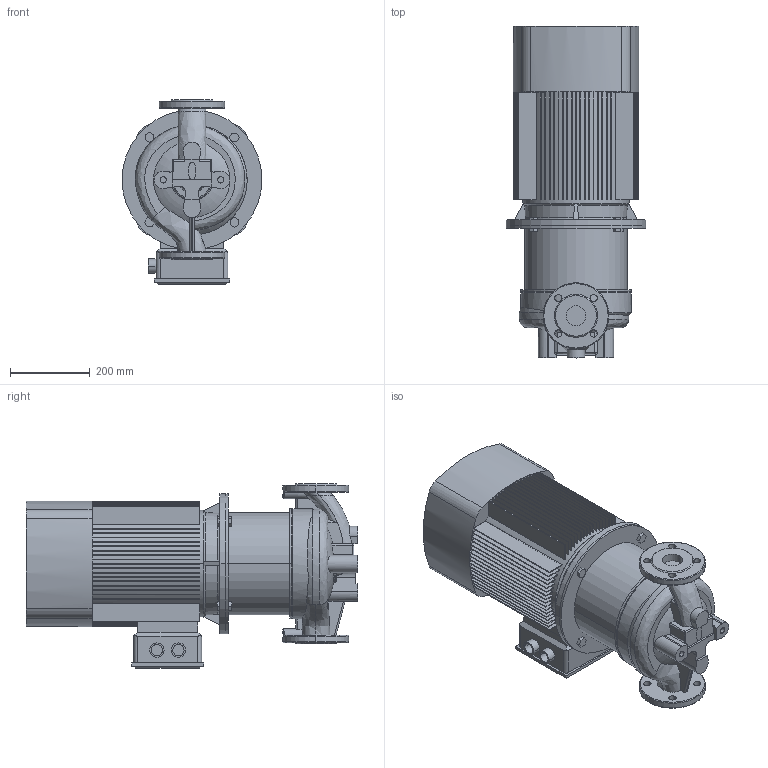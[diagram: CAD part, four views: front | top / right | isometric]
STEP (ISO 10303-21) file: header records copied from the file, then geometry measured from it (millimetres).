
FILE_DESCRIPTION (( 'STEP AP203' ), '1' );
FILE_NAME ('TD50-50G_2.STEP', '2022-04-28T10:40:24', ( '' ), ( '' ), 'SwSTEP 2.0', 'SolidWorks 2019', '' );
FILE_SCHEMA (( 'CONFIG_CONTROL_DESIGN' ));
Length unit declared in the file: millimetre
Products named in the file (4): TD50-50G_2; Fon_50_TD50-50G_2; Pr_ch 50 - 50_60_70_81_TD50-50G_2; ED_B5_YE2-160M1-2 (11)
Assembly tree (3 placements, depth 2):
  TD50-50G_2
    Pr_ch 50 - 50_60_70_81_TD50-50G_2
    Fon_50_TD50-50G_2
    ED_B5_YE2-160M1-2 (11)
Bounding box: 350 x 830 x 461 mm (x, y, z)
Volume: 46614585.6 mm3; surface area: 2619836.1 mm2
Topology: 13 solids, 13 shells, 721 faces, 1967 edges, 1294 vertices
Faces by surface type: plane 504, cylinder 142, torus 32, bspline 24, cone 17, sphere 2
Entity records: 29441 total; most frequent: CARTESIAN_POINT 10539, ORIENTED_EDGE 3930, DIRECTION 3856, EDGE_CURVE 1965, AXIS2_PLACEMENT_3D 1346, VERTEX_POINT 1294, VECTOR 1164, LINE 1164
